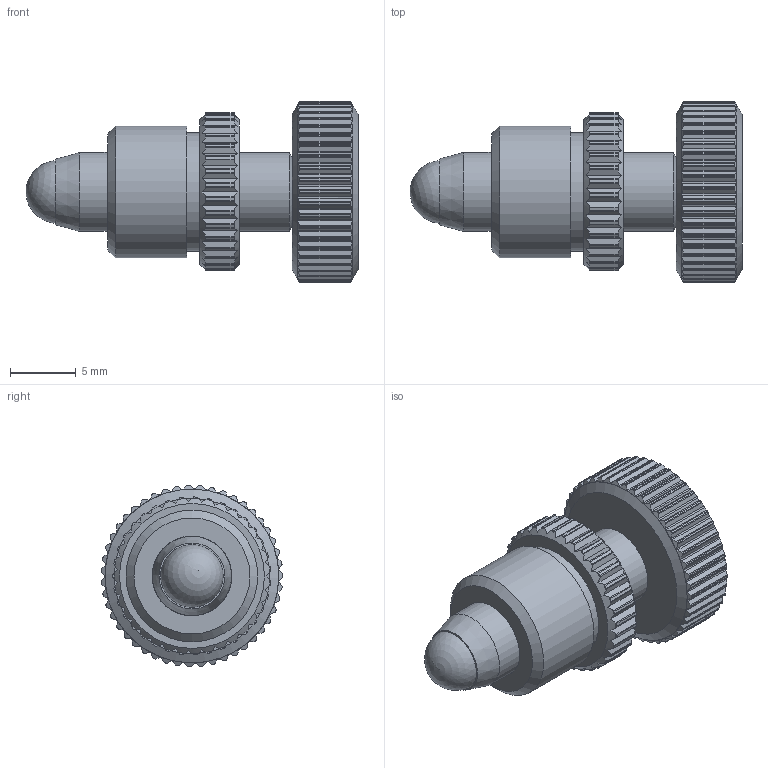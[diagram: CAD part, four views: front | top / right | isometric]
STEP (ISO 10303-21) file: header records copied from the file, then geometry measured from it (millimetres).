
FILE_DESCRIPTION(/* description */ (''),/* implementation_level */ '2;1');
FILE_NAME(/* name */ 'U:\KONSTRUKTORIAI\DOKUMENTACIJA\9\9S127M\STEP\9S127M-7.stp',/* time_stamp */ '2017-02-21T11:09:47+02:00',/* author */ ('dsgn33'),/* organization */ (''),/* preprocessor_version */ 'ST-DEVELOPER v15.2',/* originating_system */ 'Autodesk Inventor 2014',/* authorisation */ '');
FILE_SCHEMA (('AUTOMOTIVE_DESIGN { 1 0 10303 214 3 1 1 }'));
Length unit declared in the file: millimetre
Products named in the file (2): Part46; Assembly6
Bounding box: 25.2 x 13.79 x 13.8 mm (x, y, z)
Volume: 1760.5 mm3; surface area: 1400.8 mm2
Topology: 1 solids, 6 shells, 697 faces, 2049 edges, 1361 vertices
Faces by surface type: cylinder 304, plane 302, bspline 71, cone 17, sphere 3
Full cylindrical faces by diameter (mm): 1.5 x1, 2 x1, 3.1 x1, 3.3 x1, 4.6 x1, 6 x2, 9 x1, 10 x1, 13.2 x2
Entity records: 24131 total; most frequent: CARTESIAN_POINT 7430, ORIENTED_EDGE 4000, DIRECTION 2919, EDGE_CURVE 1999, VERTEX_POINT 1342, AXIS2_PLACEMENT_3D 1055, LINE 809, VECTOR 809
